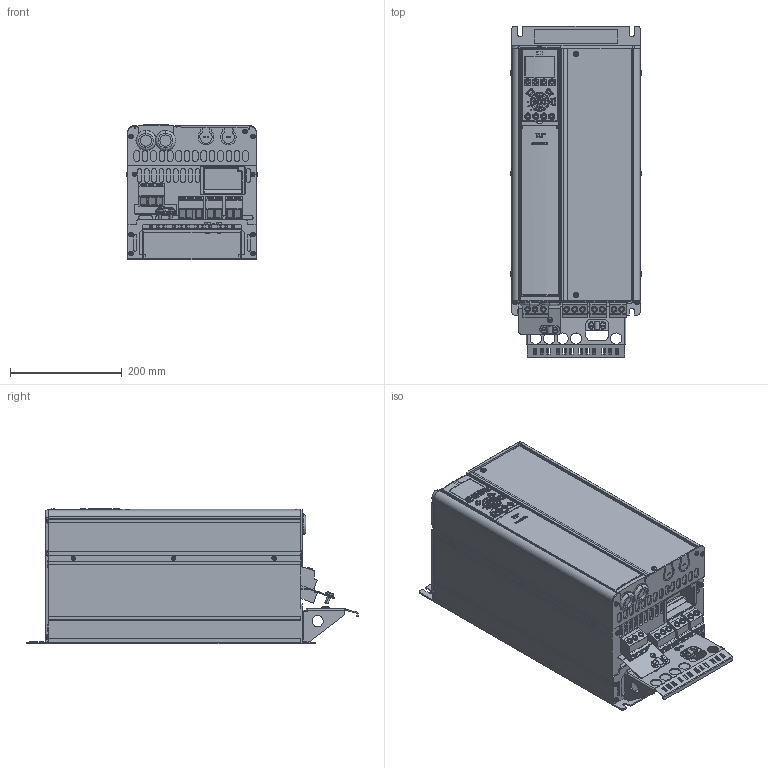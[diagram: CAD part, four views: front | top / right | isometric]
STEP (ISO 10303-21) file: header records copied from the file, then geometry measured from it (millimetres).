
FILE_DESCRIPTION((''),'2;1');
FILE_NAME('DANFOSS-FC300-B4-IP20-117','2007-07-10T',('Naushad.pm'),('dan Drives A/S'),'PRO/ENGINEER BY PARAMETRIC TECHNOLOGY CORPORATION, 2006200','PRO/ENGINEER BY PARAMETRIC TECHNOLOGY CORPORATION, 2006200','');
FILE_SCHEMA(('CONFIG_CONTROL_DESIGN', 'GEOMETRIC_VALIDATION_PROPERTIES_MIM'));
Products named in the file (1): DANFOSS-FC300-B4-IP20-117
Bounding box: 236 x 595 x 242.01 mm (x, y, z)
Volume: 21991072.5 mm3; surface area: 1395682.9 mm2
Topology: 1 solids, 31 shells, 4550 faces, 12101 edges, 7751 vertices
Faces by surface type: plane 2477, cylinder 1113, bspline 482, extrusion 174, torus 158, cone 74, sphere 72
Entity records: 187852 total; most frequent: CARTESIAN_POINT 64112, ORIENTED_EDGE 24054, DIRECTION 19565, EDGE_CURVE 12027, VERTEX_POINT 7751, VECTOR 6817, LINE 6643, AXIS2_PLACEMENT_3D 6374
